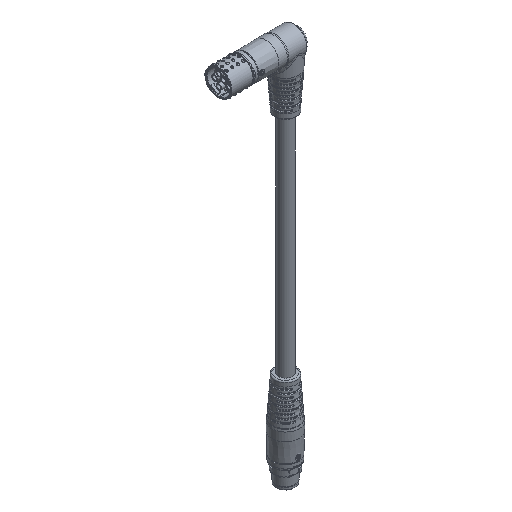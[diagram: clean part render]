
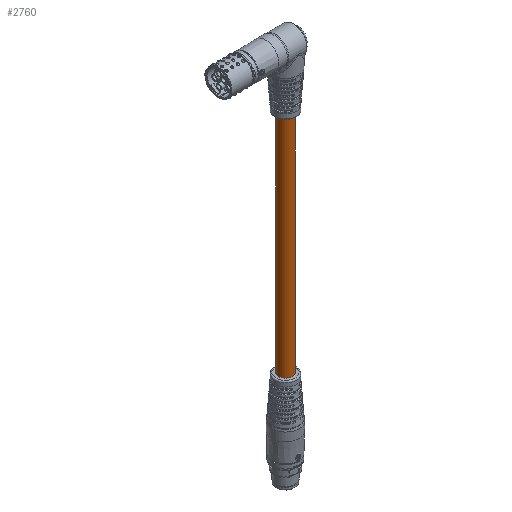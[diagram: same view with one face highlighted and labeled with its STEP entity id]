
A CAD part, isometric view. The second image highlights one B-rep face of the part: STEP entity #2760.
In plain terms, the highlighted cylindrical face has radius 5.55 mm (diameter 11.1 mm), a full revolution.
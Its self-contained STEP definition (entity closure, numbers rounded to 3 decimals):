
#1126 = DIRECTION ( 'NONE',  ( -0.711, -0.703, 0. ) ) ;
#2568 = FACE_OUTER_BOUND ( 'NONE', #39290, .T. ) ;
#2760 = ADVANCED_FACE ( 'NONE', ( #2568, #36177 ), #2876, .T. ) ;
#2876 = CYLINDRICAL_SURFACE ( 'NONE', #60396, 5.55 ) ;
#9772 = EDGE_CURVE ( 'NONE', #32454, #32454, #60897, .T. ) ;
#14006 = DIRECTION ( 'NONE',  ( 0.711, 0.703, 0. ) ) ;
#14592 = CARTESIAN_POINT ( 'NONE',  ( -3.947, -3.902, -204.898 ) ) ;
#17075 = DIRECTION ( 'NONE',  ( 0.711, 0.703, 0. ) ) ;
#17997 = CARTESIAN_POINT ( 'NONE',  ( 3.947, 3.902, -19.793 ) ) ;
#18295 = VERTEX_POINT ( 'NONE', #14592 ) ;
#21689 = CARTESIAN_POINT ( 'NONE',  ( 0., 0., -23.293 ) ) ;
#27864 = DIRECTION ( 'NONE',  ( 0., 0., 1. ) ) ;
#32454 = VERTEX_POINT ( 'NONE', #17997 ) ;
#33146 = EDGE_CURVE ( 'NONE', #18295, #18295, #58859, .T. ) ;
#36177 = FACE_OUTER_BOUND ( 'NONE', #54125, .T. ) ;
#39290 = EDGE_LOOP ( 'NONE', ( #53934 ) ) ;
#41756 = CARTESIAN_POINT ( 'NONE',  ( 0., 0., -19.793 ) ) ;
#48045 = AXIS2_PLACEMENT_3D ( 'NONE', #41756, #27864, #14006 ) ;
#51653 = ORIENTED_EDGE ( 'NONE', *, *, #33146, .F. ) ;
#53282 = DIRECTION ( 'NONE',  ( 0., 0., -1. ) ) ;
#53934 = ORIENTED_EDGE ( 'NONE', *, *, #9772, .F. ) ;
#54125 = EDGE_LOOP ( 'NONE', ( #51653 ) ) ;
#54883 = AXIS2_PLACEMENT_3D ( 'NONE', #58230, #53282, #1126 ) ;
#58230 = CARTESIAN_POINT ( 'NONE',  ( 0., 0., -204.898 ) ) ;
#58859 = CIRCLE ( 'NONE', #54883, 5.55 ) ;
#59376 = DIRECTION ( 'NONE',  ( 0., 0., 1. ) ) ;
#60396 = AXIS2_PLACEMENT_3D ( 'NONE', #21689, #59376, #17075 ) ;
#60897 = CIRCLE ( 'NONE', #48045, 5.55 ) ;
